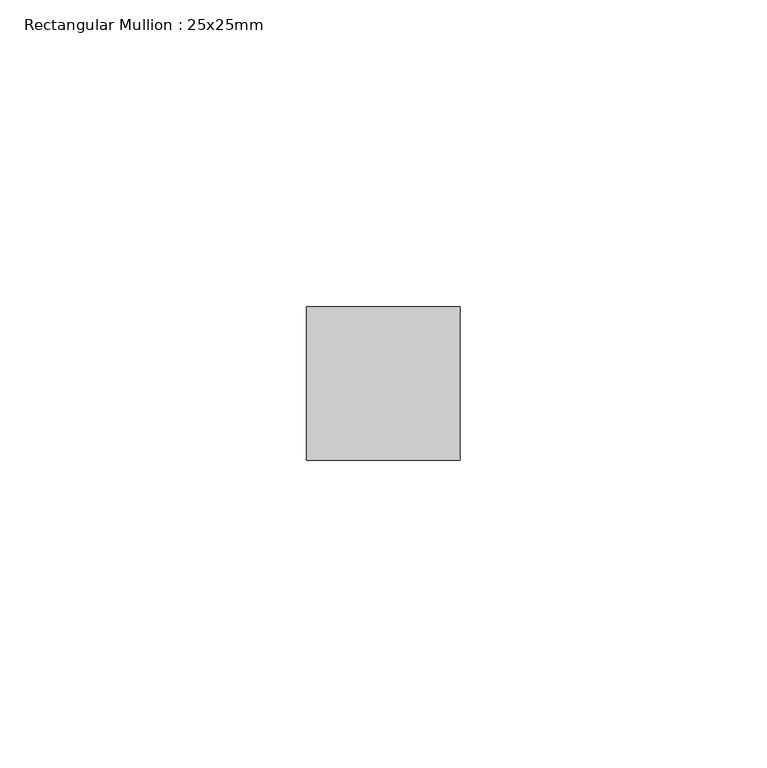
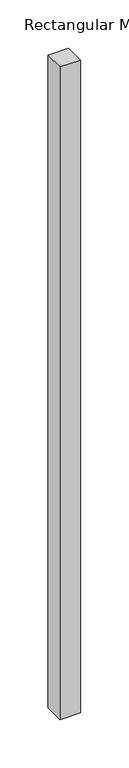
"""IFC4 building model written with IfcOpenShell, lengths in millimetres: member geometry, Rectangular Mullion : 25x25mm."""

from ifc_helpers import new_model, si_unit, frame, origin, place, context, project, spatial, polyline, outline, extrude, source, transform, mapped, element, save


def rectangular_mullion_25x25mm_b3a713a3(model_context):
    return source(origin(), model_context, "Body", "SweptSolid", [
        extrude(outline(polyline([(12.5, 24.5), (12.5, -0.5), (-12.5, -0.5), (-12.5, 24.5), (12.5, 24.5)])), frame((0.0, 0.0, -828.1250002), z_axis=(0.0, 0.0, 1.0), x_axis=(1.0, 0.0, 0.0)), (0.0, 0.0, 1.0), 828.1250002),
    ])


if __name__ == "__main__":
    model = new_model("IFC4")
    model_context = context("Model", 3, world=origin())
    ifc_project = project(units=[si_unit("LENGTHUNIT", "METRE", prefix="MILLI")], contexts=[model_context])
    site = spatial("IfcSite", under=ifc_project)
    building = spatial("IfcBuilding", under=site)
    placement = place(None, origin())
    rectangular_mullion_25x25mm_shape = rectangular_mullion_25x25mm_b3a713a3(model_context)
    element("IfcMember", 1, ObjectType="Rectangular Mullion : 25x25mm", at=placement, inside=building, context=model_context, shape_type="MappedRepresentation", body=[
        mapped(rectangular_mullion_25x25mm_shape, transform((0.0, 0.0, 0.0), x_axis=(1.0, 0.0, 0.0), y_axis=(0.0, 1.0, 0.0), z_axis=(0.0, 0.0, 1.0))),
    ])
    save(model, "model.ifc")
